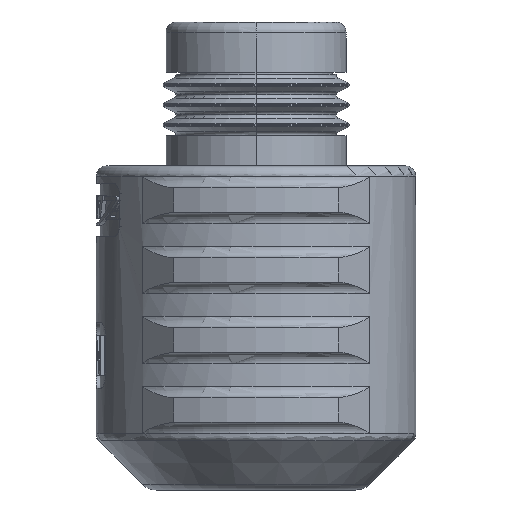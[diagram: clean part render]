
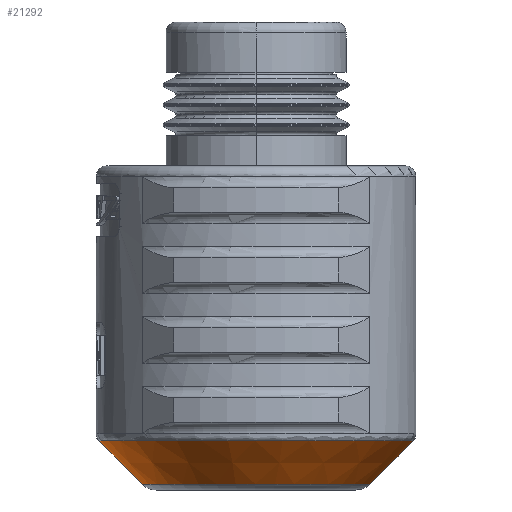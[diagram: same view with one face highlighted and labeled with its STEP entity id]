
A CAD part, left-side view. The second image highlights one B-rep face of the part: STEP entity #21292.
In plain terms, the highlighted conical face has half-angle 45 degrees and reference radius 6.773 mm.
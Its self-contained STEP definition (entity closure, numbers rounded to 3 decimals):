
#1037=CARTESIAN_POINT('',(0.,0.,-1.446));
#1038=DIRECTION('',(0.,0.,-1.));
#1039=DIRECTION('',(0.,-1.,0.));
#1040=AXIS2_PLACEMENT_3D('',#1037,#1038,#1039);
#1042=CARTESIAN_POINT('',(0.,0.,-1.446));
#1043=DIRECTION('',(0.,0.,-1.));
#1044=DIRECTION('',(-0.011,-1.,0.));
#1045=AXIS2_PLACEMENT_3D('',#1042,#1043,#1044);
#1536=DIRECTION('',(0.,-0.707,0.707));
#1537=VECTOR('',#1536,3.056);
#1538=CARTESIAN_POINT('',(0.,-5.693,
-3.607));
#1539=LINE('',#1538,#1537);
#1552=DIRECTION('',(0.,-0.707,-0.707));
#1553=VECTOR('',#1552,3.056);
#1554=CARTESIAN_POINT('',(0.,7.854,
-1.446));
#1555=LINE('',#1554,#1553);
#1571=CARTESIAN_POINT('',(0.,0.,-3.607));
#1572=DIRECTION('',(0.,0.,1.));
#1573=DIRECTION('',(0.,1.,0.));
#1574=AXIS2_PLACEMENT_3D('',#1571,#1572,#1573);
#1576=CARTESIAN_POINT('',(0.,0.,-3.607));
#1577=DIRECTION('',(0.,0.,1.));
#1578=DIRECTION('',(-0.013,-1.,0.));
#1579=AXIS2_PLACEMENT_3D('',#1576,#1577,#1578);
#16646=CARTESIAN_POINT('',(0.,-7.854,-1.446));
#16647=VERTEX_POINT('',#16646);
#16648=CARTESIAN_POINT('',(-0.083,-7.853,
-1.446));
#16649=VERTEX_POINT('',#16648);
#16650=CARTESIAN_POINT('',(0.,7.854,
-1.446));
#16651=VERTEX_POINT('',#16650);
#16734=CARTESIAN_POINT('',(0.,5.693,
-3.607));
#16736=VERTEX_POINT('',#16734);
#16737=CARTESIAN_POINT('',(0.,-5.693,-3.607));
#16738=VERTEX_POINT('',#16737);
#16745=CARTESIAN_POINT('',(-0.072,-5.692,
-3.607));
#16746=VERTEX_POINT('',#16745);
#21279=CARTESIAN_POINT('',(0.,0.,-2.527));
#21280=DIRECTION('',(0.,0.,1.));
#21281=DIRECTION('',(0.,-1.,0.));
#21282=AXIS2_PLACEMENT_3D('',#21279,#21280,#21281);
#21283=CONICAL_SURFACE('',#21282,6.773,45.);
#21284=ORIENTED_EDGE('',*,*,#21268,.F.);
#21285=ORIENTED_EDGE('',*,*,#21266,.F.);
#21286=ORIENTED_EDGE('',*,*,#21238,.F.);
#21287=ORIENTED_EDGE('',*,*,#20467,.F.);
#21288=ORIENTED_EDGE('',*,*,#20465,.F.);
#21289=ORIENTED_EDGE('',*,*,#21228,.F.);
#21290=EDGE_LOOP('',(#21284,#21285,#21286,#21287,#21288,#21289));
#21291=FACE_OUTER_BOUND('',#21290,.F.);
#21292=ADVANCED_FACE('',(#21291),#21283,.T.);
#1041=CIRCLE('',#1040,7.854);
#1046=CIRCLE('',#1045,7.854);
#1575=CIRCLE('',#1574,5.693);
#1580=CIRCLE('',#1579,5.693);
#20465=EDGE_CURVE('',#16647,#16649,#1041,.T.);
#20467=EDGE_CURVE('',#16649,#16651,#1046,.T.);
#21228=EDGE_CURVE('',#16738,#16647,#1539,.T.);
#21238=EDGE_CURVE('',#16651,#16736,#1555,.T.);
#21266=EDGE_CURVE('',#16736,#16746,#1575,.T.);
#21268=EDGE_CURVE('',#16746,#16738,#1580,.T.);
